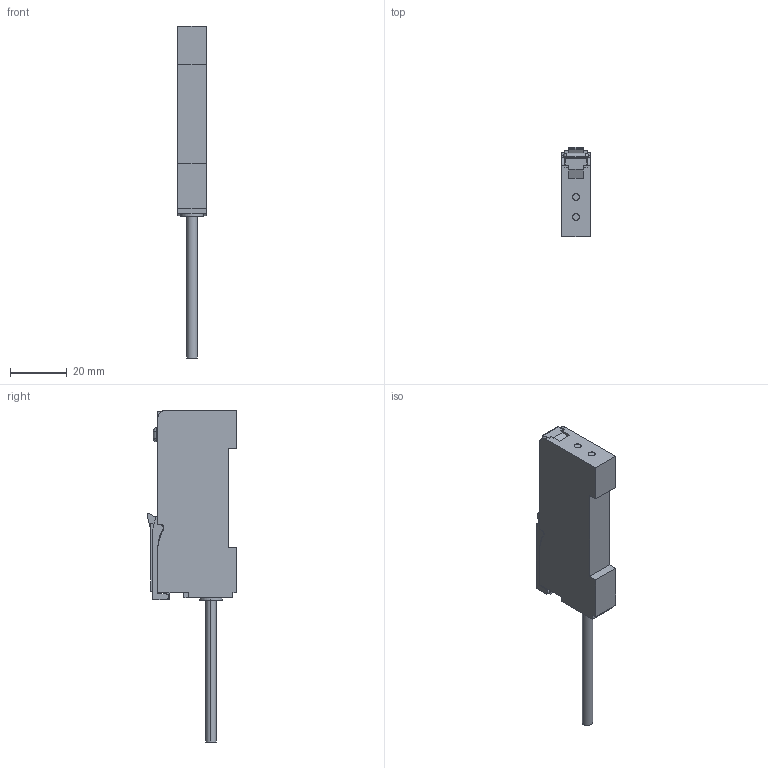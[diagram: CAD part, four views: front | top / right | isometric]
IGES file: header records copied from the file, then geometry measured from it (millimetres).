
Start section: SolidWorks IGES file using analytic representation for surfaces
Global section: file name: C:\catalog\fx-251-c2.IGS; native system: SolidWorks 2022; preprocessor: SolidWorks 2022; author: 4048506; date: 250616.164641; units: millimetre
Bounding box: 10 x 31.74 x 117.3 mm (x, y, z)
Surface area: 7452.2 mm2 (no closed solid volume)
Topology: 0 solids, 0 shells, 179 faces, 1502 edges, 1498 vertices
Faces by surface type: bspline 132, revolution 47
